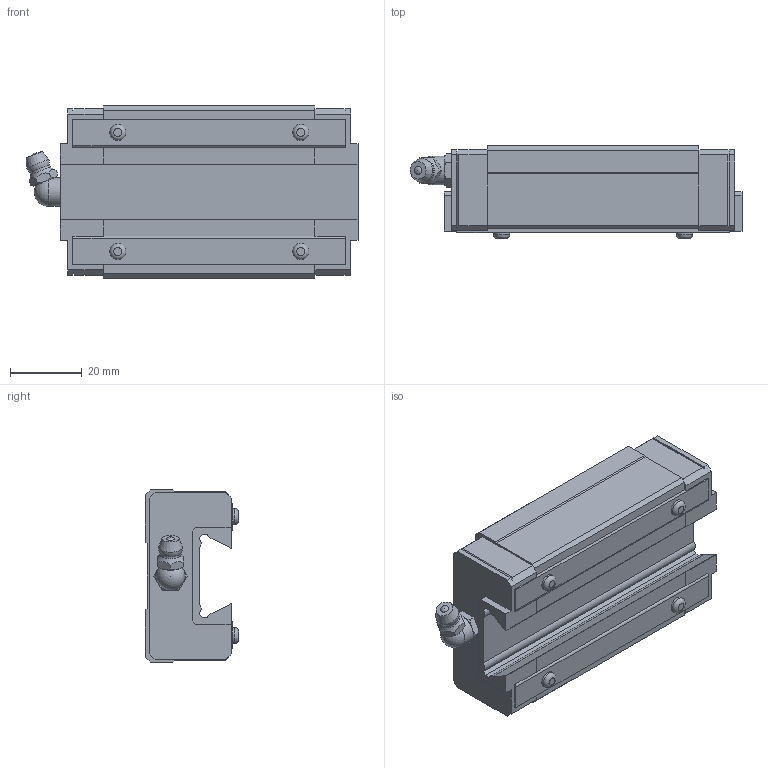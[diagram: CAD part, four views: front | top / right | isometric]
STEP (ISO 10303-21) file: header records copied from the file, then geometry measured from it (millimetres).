
FILE_DESCRIPTION(/* description */ ('STEP AP214'),/* implementation_level */ '2;1');
FILE_NAME(/* name */ 'SR25W1SS(GK) BLOCK(B-M6F1)',/* time_stamp */ '2023-06-01T09:46:23+02:00',/* author */ ('License CC BY-ND 4.0'),/* organization */ ('CADENAS'),/* preprocessor_version */ 'ST-DEVELOPER v19.3',/* originating_system */ 'PARTsolutions',/* authorisation */ ' ');
FILE_SCHEMA (('AUTOMOTIVE_DESIGN {1 0 10303 214 3 1 1}'));
Length unit declared in the file: millimetre
Products named in the file (3): SR25W1SS(GK) BLOCK(B-M6F1); SR-B-M6F_gnj; SR25WYSSB-M6F1 S
Assembly tree (2 placements, depth 2):
  SR25W1SS(GK) BLOCK(B-M6F1)
    SR-B-M6F_gnj
    SR25WYSSB-M6F1 S
Bounding box: 92.6 x 26 x 48 mm (x, y, z)
Volume: 74084.3 mm3; surface area: 17161.8 mm2
Topology: 2 solids, 2 shells, 172 faces, 458 edges, 295 vertices
Faces by surface type: plane 122, cone 21, cylinder 20, torus 6, sphere 3
Full cylindrical faces by diameter (mm): 4.5 x4, 4.917 x6, 6 x1, 8 x1
Entity records: 5135 total; most frequent: CARTESIAN_POINT 974, ORIENTED_EDGE 820, DIRECTION 814, EDGE_CURVE 410, LINE 308, VECTOR 308, VERTEX_POINT 289, AXIS2_PLACEMENT_3D 253
